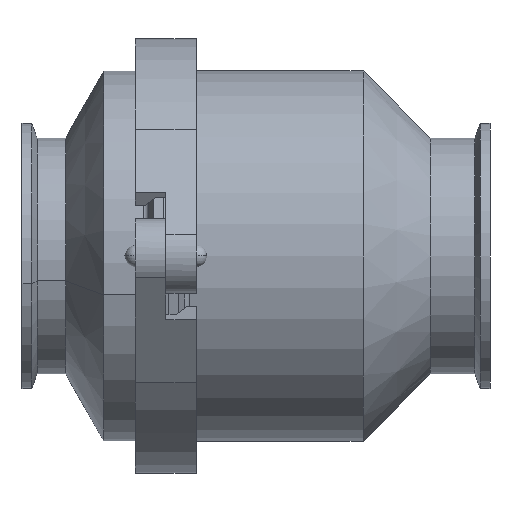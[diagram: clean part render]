
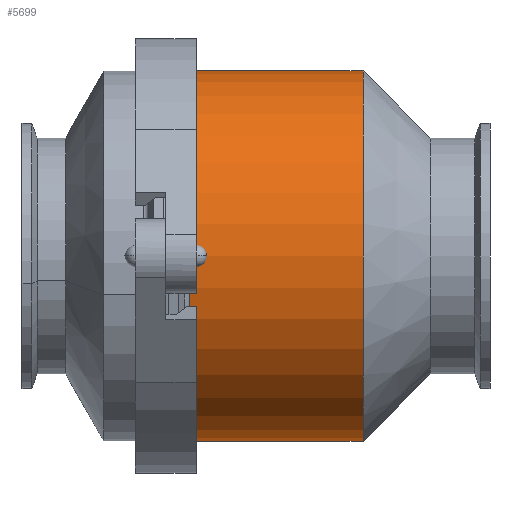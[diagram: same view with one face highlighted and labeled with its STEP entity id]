
A CAD part, left-side view. The second image highlights one B-rep face of the part: STEP entity #5699.
In plain terms, the highlighted cylindrical face has radius 53.975 mm (diameter 107.95 mm), a partial arc.
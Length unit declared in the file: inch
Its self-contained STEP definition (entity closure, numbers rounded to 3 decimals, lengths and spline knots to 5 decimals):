
#528 = ORIENTED_EDGE ( 'NONE', *, *, #9945, .F. ) ;
#546 = VECTOR ( 'NONE', #6248, 39.37008 ) ;
#898 = CARTESIAN_POINT ( 'NONE',  ( 1.05837, 1.4781, 2.22609 ) ) ;
#1113 = VERTEX_POINT ( 'NONE', #898 ) ;
#1314 = AXIS2_PLACEMENT_3D ( 'NONE', #8005, #2164, #8997 ) ;
#1718 = DIRECTION ( 'NONE',  ( 0., 0., -1. ) ) ;
#1885 = ORIENTED_EDGE ( 'NONE', *, *, #7657, .F. ) ;
#1945 = CIRCLE ( 'NONE', #1314, 2.125 ) ;
#2164 = DIRECTION ( 'NONE',  ( 0., -1., 0. ) ) ;
#2505 = CARTESIAN_POINT ( 'NONE',  ( 1.05837, 3.47337, 6.47609 ) ) ;
#2642 = VERTEX_POINT ( 'NONE', #2505 ) ;
#2648 = FACE_OUTER_BOUND ( 'NONE', #9845, .T. ) ;
#3681 = CYLINDRICAL_SURFACE ( 'NONE', #5570, 2.125 ) ;
#4801 = ORIENTED_EDGE ( 'NONE', *, *, #11715, .T. ) ;
#5199 = DIRECTION ( 'NONE',  ( 0., -1., 0. ) ) ;
#5235 = VERTEX_POINT ( 'NONE', #6975 ) ;
#5240 = AXIS2_PLACEMENT_3D ( 'NONE', #11100, #5199, #12109 ) ;
#5242 = CARTESIAN_POINT ( 'NONE',  ( 1.05837, 3.7081, 2.22609 ) ) ;
#5331 = VECTOR ( 'NONE', #8019, 39.37008 ) ;
#5570 = AXIS2_PLACEMENT_3D ( 'NONE', #7587, #12509, #1718 ) ;
#5699 = ADVANCED_FACE ( 'NONE', ( #2648 ), #3681, .T. ) ;
#5779 = LINE ( 'NONE', #5242, #546 ) ;
#6248 = DIRECTION ( 'NONE',  ( 0., -1., 0. ) ) ;
#6396 = CIRCLE ( 'NONE', #5240, 2.125 ) ;
#6975 = CARTESIAN_POINT ( 'NONE',  ( 1.05837, 3.47337, 2.22609 ) ) ;
#7038 = CARTESIAN_POINT ( 'NONE',  ( 1.05837, 3.7081, 6.47609 ) ) ;
#7587 = CARTESIAN_POINT ( 'NONE',  ( 1.05837, 3.7081, 4.35109 ) ) ;
#7657 = EDGE_CURVE ( 'NONE', #8454, #1113, #1945, .T. ) ;
#8005 = CARTESIAN_POINT ( 'NONE',  ( 1.05837, 1.4781, 4.35109 ) ) ;
#8019 = DIRECTION ( 'NONE',  ( 0., -1., 0. ) ) ;
#8454 = VERTEX_POINT ( 'NONE', #11128 ) ;
#8997 = DIRECTION ( 'NONE',  ( 0., 0., -1. ) ) ;
#9845 = EDGE_LOOP ( 'NONE', ( #528, #11570, #4801, #1885 ) ) ;
#9945 = EDGE_CURVE ( 'NONE', #2642, #8454, #10891, .T. ) ;
#10891 = LINE ( 'NONE', #7038, #5331 ) ;
#11100 = CARTESIAN_POINT ( 'NONE',  ( 1.05837, 3.47337, 4.35109 ) ) ;
#11128 = CARTESIAN_POINT ( 'NONE',  ( 1.05837, 1.4781, 6.47609 ) ) ;
#11570 = ORIENTED_EDGE ( 'NONE', *, *, #11668, .T. ) ;
#11668 = EDGE_CURVE ( 'NONE', #2642, #5235, #6396, .T. ) ;
#11715 = EDGE_CURVE ( 'NONE', #5235, #1113, #5779, .T. ) ;
#12109 = DIRECTION ( 'NONE',  ( 0., 0., -1. ) ) ;
#12509 = DIRECTION ( 'NONE',  ( 0., -1., 0. ) ) ;
